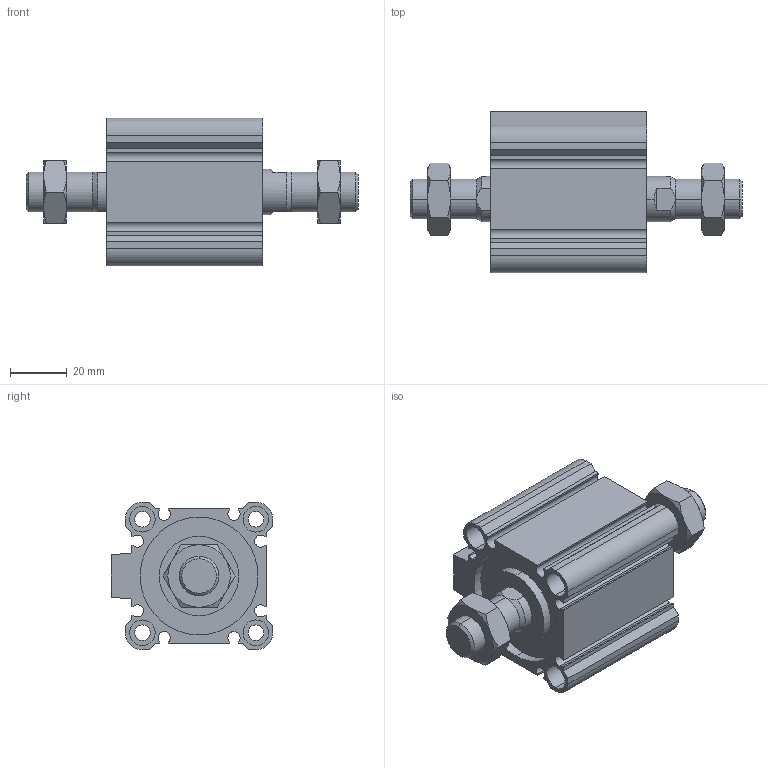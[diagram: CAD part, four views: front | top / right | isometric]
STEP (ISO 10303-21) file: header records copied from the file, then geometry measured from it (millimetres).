
FILE_DESCRIPTION (( 'STEP AP203' ), '1' );
FILE_NAME ('CCMB40-5M-P.STEP', '2020-08-10T11:37:00', ( '' ), ( '' ), 'SwSTEP 2.0', 'SolidWorks 2019', '' );
FILE_SCHEMA (( 'CONFIG_CONTROL_DESIGN' ));
Length unit declared in the file: millimetre
Products named in the file (1): CCMB40-5M-P
Bounding box: 117 x 57 x 52 mm (x, y, z)
Volume: 127201.8 mm3; surface area: 46590.3 mm2
Topology: 4 solids, 4 shells, 216 faces, 522 edges, 332 vertices
Faces by surface type: plane 94, cylinder 78, cone 44
Entity records: 7009 total; most frequent: CARTESIAN_POINT 1819, DIRECTION 1088, ORIENTED_EDGE 1044, EDGE_CURVE 522, AXIS2_PLACEMENT_3D 413, VERTEX_POINT 332, LINE 262, VECTOR 262
